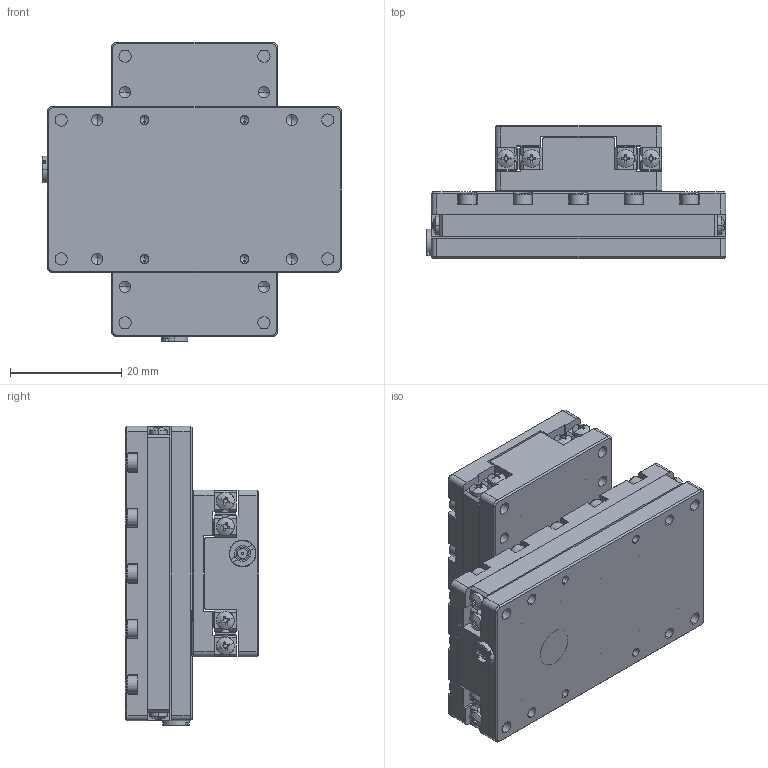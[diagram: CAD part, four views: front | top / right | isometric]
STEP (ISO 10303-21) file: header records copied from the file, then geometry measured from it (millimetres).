
FILE_DESCRIPTION (( 'STEP AP214' ), '1' );
FILE_NAME ('N56.XY30K-B1开环二维直线压电马达3D图（25.08.01）.STEP', '2025-08-01T05:24:03', ( '微软用户' ), ( '微软中国' ), 'SwSTEP 2.0', 'SolidWorks 2016', '' );
FILE_SCHEMA (( 'AUTOMOTIVE_DESIGN' ));
Length unit declared in the file: millimetre
Products named in the file (1): N56.XY30K-B1开环二维直线压电马达3D图（25.08.01）
Bounding box: 53.9 x 24 x 53.9 mm (x, y, z)
Volume: 27004 mm3; surface area: 33138.5 mm2
Topology: 130 solids, 130 shells, 2958 faces, 7324 edges, 4672 vertices
Faces by surface type: plane 1484, cylinder 1090, cone 268, bspline 116
Entity records: 122485 total; most frequent: CARTESIAN_POINT 18051, DIRECTION 15006, ORIENTED_EDGE 14248, EDGE_CURVE 7124, AXIS2_PLACEMENT_3D 5507, VERTEX_POINT 4672, VECTOR 3992, LINE 3992
